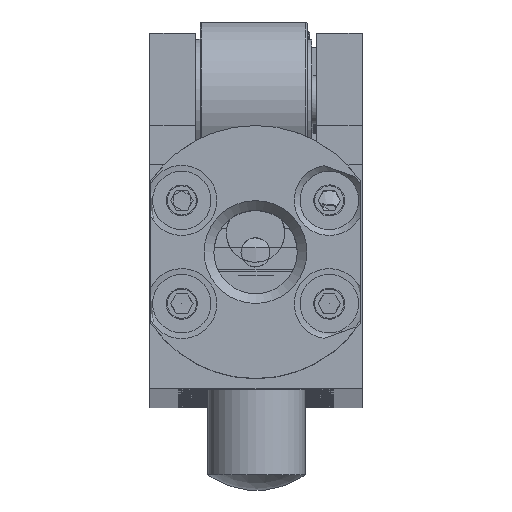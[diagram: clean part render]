
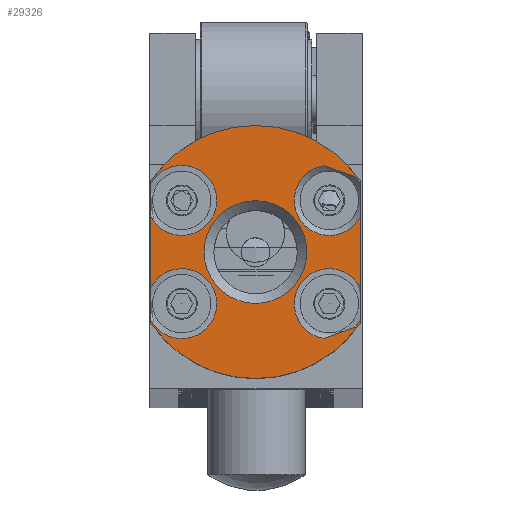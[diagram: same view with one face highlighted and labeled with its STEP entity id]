
A CAD part, top view. The second image highlights one B-rep face of the part: STEP entity #29326.
In plain terms, the highlighted planar face has unit normal (0, 0, 1).
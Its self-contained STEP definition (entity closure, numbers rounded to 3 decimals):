
#878=FACE_BOUND('',#6284,.T.);
#1251=PLANE('',#31683);
#1764=LINE('',#47256,#2903);
#1765=LINE('',#47259,#2904);
#1766=LINE('',#47263,#2905);
#1767=LINE('',#47267,#2906);
#1768=LINE('',#47271,#2907);
#1769=LINE('',#47275,#2908);
#1770=LINE('',#47279,#2909);
#1771=LINE('',#47282,#2910);
#2903=VECTOR('',#37421,10.);
#2904=VECTOR('',#37424,10.);
#2905=VECTOR('',#37427,10.);
#2906=VECTOR('',#37430,10.);
#2907=VECTOR('',#37433,10.);
#2908=VECTOR('',#37436,10.);
#2909=VECTOR('',#37439,10.);
#2910=VECTOR('',#37442,10.);
#4703=FACE_OUTER_BOUND('',#6283,.T.);
#6283=EDGE_LOOP('',(#20339,#20340,#20341,#20342,#20343,#20344,#20345,#20346,
#20347,#20348,#20349,#20350,#20351,#20352,#20353,#20354));
#6284=EDGE_LOOP('',(#20355));
#8576=CIRCLE('',#31676,3.6);
#8579=CIRCLE('',#31679,3.6);
#8581=CIRCLE('',#31684,3.6);
#8582=CIRCLE('',#31685,3.6);
#8583=CIRCLE('',#31686,13.);
#8584=CIRCLE('',#31687,3.6);
#8585=CIRCLE('',#31688,3.6);
#8586=CIRCLE('',#31689,13.);
#8587=CIRCLE('',#31690,5.283);
#11456=VERTEX_POINT('',#47230);
#11457=VERTEX_POINT('',#47231);
#11458=VERTEX_POINT('',#47235);
#11462=VERTEX_POINT('',#47246);
#11464=VERTEX_POINT('',#47258);
#11465=VERTEX_POINT('',#47260);
#11466=VERTEX_POINT('',#47262);
#11467=VERTEX_POINT('',#47264);
#11468=VERTEX_POINT('',#47266);
#11469=VERTEX_POINT('',#47268);
#11470=VERTEX_POINT('',#47270);
#11471=VERTEX_POINT('',#47272);
#11472=VERTEX_POINT('',#47274);
#11473=VERTEX_POINT('',#47276);
#11474=VERTEX_POINT('',#47278);
#11475=VERTEX_POINT('',#47280);
#11476=VERTEX_POINT('',#47283);
#14866=EDGE_CURVE('',#11458,#11456,#8576,.T.);
#14872=EDGE_CURVE('',#11457,#11462,#8579,.T.);
#14875=EDGE_CURVE('',#11462,#11458,#1764,.T.);
#14876=EDGE_CURVE('',#11456,#11464,#1765,.T.);
#14877=EDGE_CURVE('',#11464,#11465,#8581,.T.);
#14878=EDGE_CURVE('',#11465,#11466,#1766,.T.);
#14879=EDGE_CURVE('',#11466,#11467,#8582,.T.);
#14880=EDGE_CURVE('',#11467,#11468,#1767,.T.);
#14881=EDGE_CURVE('',#11469,#11468,#8583,.T.);
#14882=EDGE_CURVE('',#11469,#11470,#1768,.T.);
#14883=EDGE_CURVE('',#11470,#11471,#8584,.T.);
#14884=EDGE_CURVE('',#11471,#11472,#1769,.T.);
#14885=EDGE_CURVE('',#11472,#11473,#8585,.T.);
#14886=EDGE_CURVE('',#11473,#11474,#1770,.T.);
#14887=EDGE_CURVE('',#11475,#11474,#8586,.T.);
#14888=EDGE_CURVE('',#11475,#11457,#1771,.T.);
#14889=EDGE_CURVE('',#11476,#11476,#8587,.T.);
#20339=ORIENTED_EDGE('',*,*,#14872,.T.);
#20340=ORIENTED_EDGE('',*,*,#14875,.T.);
#20341=ORIENTED_EDGE('',*,*,#14866,.T.);
#20342=ORIENTED_EDGE('',*,*,#14876,.T.);
#20343=ORIENTED_EDGE('',*,*,#14877,.T.);
#20344=ORIENTED_EDGE('',*,*,#14878,.T.);
#20345=ORIENTED_EDGE('',*,*,#14879,.T.);
#20346=ORIENTED_EDGE('',*,*,#14880,.T.);
#20347=ORIENTED_EDGE('',*,*,#14881,.F.);
#20348=ORIENTED_EDGE('',*,*,#14882,.T.);
#20349=ORIENTED_EDGE('',*,*,#14883,.T.);
#20350=ORIENTED_EDGE('',*,*,#14884,.T.);
#20351=ORIENTED_EDGE('',*,*,#14885,.T.);
#20352=ORIENTED_EDGE('',*,*,#14886,.T.);
#20353=ORIENTED_EDGE('',*,*,#14887,.F.);
#20354=ORIENTED_EDGE('',*,*,#14888,.T.);
#20355=ORIENTED_EDGE('',*,*,#14889,.F.);
#29326=ADVANCED_FACE('',(#4703,#878),#1251,.T.);
#31676=AXIS2_PLACEMENT_3D('',#47236,#37405,#37406);
#31679=AXIS2_PLACEMENT_3D('',#47250,#37412,#37413);
#31683=AXIS2_PLACEMENT_3D('',#47257,#37422,#37423);
#31684=AXIS2_PLACEMENT_3D('',#47261,#37425,#37426);
#31685=AXIS2_PLACEMENT_3D('',#47265,#37428,#37429);
#31686=AXIS2_PLACEMENT_3D('',#47269,#37431,#37432);
#31687=AXIS2_PLACEMENT_3D('',#47273,#37434,#37435);
#31688=AXIS2_PLACEMENT_3D('',#47277,#37437,#37438);
#31689=AXIS2_PLACEMENT_3D('',#47281,#37440,#37441);
#31690=AXIS2_PLACEMENT_3D('',#47284,#37443,#37444);
#37405=DIRECTION('center_axis',(0.,0.,-1.));
#37406=DIRECTION('ref_axis',(-0.342,0.94,0.));
#37412=DIRECTION('center_axis',(0.,0.,-1.));
#37413=DIRECTION('ref_axis',(-0.342,0.94,0.));
#37421=DIRECTION('',(-0.94,-0.342,0.));
#37422=DIRECTION('center_axis',(0.,0.,1.));
#37423=DIRECTION('ref_axis',(1.,0.,0.));
#37424=DIRECTION('',(0.,1.,0.));
#37425=DIRECTION('center_axis',(0.,0.,-1.));
#37426=DIRECTION('ref_axis',(-0.342,-0.94,0.));
#37427=DIRECTION('',(0.94,-0.342,0.));
#37428=DIRECTION('center_axis',(0.,0.,-1.));
#37429=DIRECTION('ref_axis',(-0.342,-0.94,0.));
#37430=DIRECTION('',(0.,1.,0.));
#37431=DIRECTION('center_axis',(0.,0.,-1.));
#37432=DIRECTION('ref_axis',(0.,1.,0.));
#37433=DIRECTION('',(0.,-1.,0.));
#37434=DIRECTION('center_axis',(0.,0.,-1.));
#37435=DIRECTION('ref_axis',(1.,0.,0.));
#37436=DIRECTION('',(0.,-1.,0.));
#37437=DIRECTION('center_axis',(0.,0.,-1.));
#37438=DIRECTION('ref_axis',(1.,0.,0.));
#37439=DIRECTION('',(0.,-1.,0.));
#37440=DIRECTION('center_axis',(0.,0.,-1.));
#37441=DIRECTION('ref_axis',(0.,1.,0.));
#37442=DIRECTION('',(0.,1.,0.));
#37443=DIRECTION('center_axis',(0.,0.,1.));
#37444=DIRECTION('ref_axis',(-1.,0.,0.));
#47230=CARTESIAN_POINT('',(10.7,-7.855,856.));
#47231=CARTESIAN_POINT('',(10.7,-11.256,856.));
#47235=CARTESIAN_POINT('',(7.014,-13.119,856.));
#47236=CARTESIAN_POINT('Origin',(7.527,-9.556,856.));
#47246=CARTESIAN_POINT('',(10.211,-11.955,856.));
#47250=CARTESIAN_POINT('Origin',(7.527,-9.556,856.));
#47256=CARTESIAN_POINT('',(8.106,-12.721,856.));
#47257=CARTESIAN_POINT('Origin',(-0.05,2.25,856.));
#47258=CARTESIAN_POINT('',(10.7,-0.645,856.));
#47259=CARTESIAN_POINT('',(10.7,-4.655,856.));
#47260=CARTESIAN_POINT('',(7.014,4.619,856.));
#47261=CARTESIAN_POINT('Origin',(7.527,1.056,856.));
#47262=CARTESIAN_POINT('',(10.211,3.455,856.));
#47263=CARTESIAN_POINT('',(6.017,4.982,856.));
#47264=CARTESIAN_POINT('',(10.7,2.756,856.));
#47265=CARTESIAN_POINT('Origin',(7.527,1.056,856.));
#47266=CARTESIAN_POINT('',(10.7,3.06,856.));
#47267=CARTESIAN_POINT('',(10.7,-4.655,856.));
#47268=CARTESIAN_POINT('',(-10.8,3.06,856.));
#47269=CARTESIAN_POINT('Origin',(-0.05,-4.25,856.));
#47270=CARTESIAN_POINT('',(-10.8,2.756,856.));
#47271=CARTESIAN_POINT('',(-10.8,2.655,856.));
#47272=CARTESIAN_POINT('',(-10.8,-0.645,856.));
#47273=CARTESIAN_POINT('Origin',(-7.627,1.056,856.));
#47274=CARTESIAN_POINT('',(-10.8,-7.855,856.));
#47275=CARTESIAN_POINT('',(-10.8,2.655,856.));
#47276=CARTESIAN_POINT('',(-10.8,-11.256,856.));
#47277=CARTESIAN_POINT('Origin',(-7.627,-9.556,856.));
#47278=CARTESIAN_POINT('',(-10.8,-11.56,856.));
#47279=CARTESIAN_POINT('',(-10.8,2.655,856.));
#47280=CARTESIAN_POINT('',(10.7,-11.56,856.));
#47281=CARTESIAN_POINT('Origin',(-0.05,-4.25,856.));
#47282=CARTESIAN_POINT('',(10.7,-4.655,856.));
#47283=CARTESIAN_POINT('',(5.233,-4.25,856.));
#47284=CARTESIAN_POINT('Origin',(-0.05,-4.25,856.));
